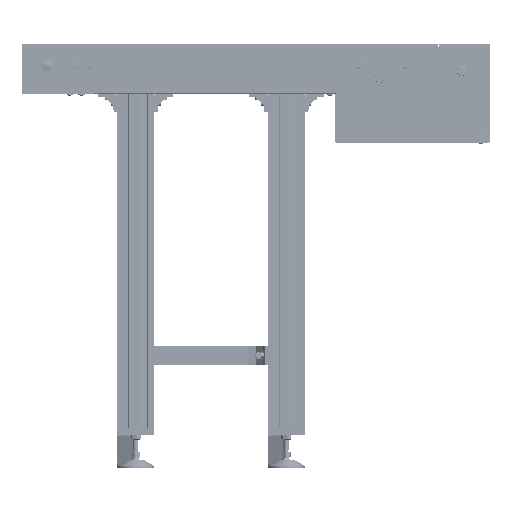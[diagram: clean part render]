
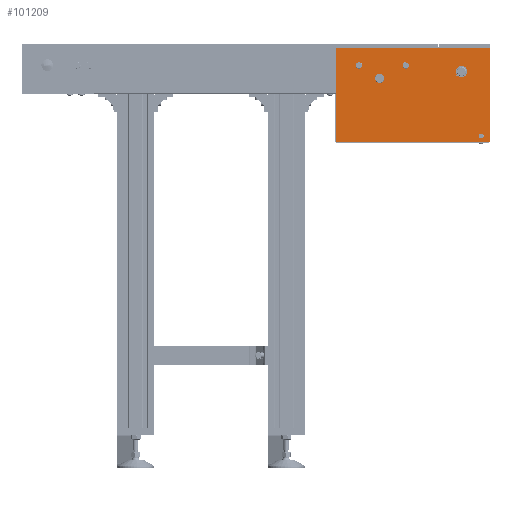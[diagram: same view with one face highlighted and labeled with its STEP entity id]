
A CAD part, front view. The second image highlights one B-rep face of the part: STEP entity #101209.
In plain terms, the highlighted planar face has unit normal (0, -1, 0).
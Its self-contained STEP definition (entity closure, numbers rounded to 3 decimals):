
#3018=FACE_BOUND('',#13751,.T.);
#3019=FACE_BOUND('',#13752,.T.);
#3020=FACE_BOUND('',#13753,.T.);
#3021=FACE_BOUND('',#13754,.T.);
#3022=FACE_BOUND('',#13755,.T.);
#4417=CIRCLE('',#107037,10.);
#4459=CIRCLE('',#107129,5.);
#4476=CIRCLE('',#107166,6.5);
#4477=CIRCLE('',#107167,6.5);
#4478=CIRCLE('',#107168,10.);
#8238=FACE_OUTER_BOUND('',#13750,.T.);
#13750=EDGE_LOOP('',(#68598,#68599,#68600,#68601));
#13751=EDGE_LOOP('',(#68602));
#13752=EDGE_LOOP('',(#68603));
#13753=EDGE_LOOP('',(#68604));
#13754=EDGE_LOOP('',(#68605));
#13755=EDGE_LOOP('',(#68606));
#21466=LINE('',#149786,#31498);
#21477=LINE('',#149820,#31509);
#21478=LINE('',#149822,#31510);
#21479=LINE('',#149823,#31511);
#31498=VECTOR('',#120116,330.);
#31509=VECTOR('',#120141,200.);
#31510=VECTOR('',#120142,200.);
#31511=VECTOR('',#120143,330.);
#40994=VERTEX_POINT('',#149488);
#41054=VERTEX_POINT('',#149677);
#41080=VERTEX_POINT('',#149783);
#41081=VERTEX_POINT('',#149785);
#41097=VERTEX_POINT('',#149819);
#41098=VERTEX_POINT('',#149821);
#41099=VERTEX_POINT('',#149824);
#41100=VERTEX_POINT('',#149826);
#41101=VERTEX_POINT('',#149828);
#51488=EDGE_CURVE('',#40994,#40994,#4417,.T.);
#51567=EDGE_CURVE('',#41054,#41054,#4459,.T.);
#51605=EDGE_CURVE('',#41081,#41080,#21466,.T.);
#51622=EDGE_CURVE('',#41097,#41081,#21477,.T.);
#51623=EDGE_CURVE('',#41080,#41098,#21478,.T.);
#51624=EDGE_CURVE('',#41098,#41097,#21479,.T.);
#51625=EDGE_CURVE('',#41099,#41099,#4476,.T.);
#51626=EDGE_CURVE('',#41100,#41100,#4477,.T.);
#51627=EDGE_CURVE('',#41101,#41101,#4478,.T.);
#68598=ORIENTED_EDGE('',*,*,#51622,.T.);
#68599=ORIENTED_EDGE('',*,*,#51605,.T.);
#68600=ORIENTED_EDGE('',*,*,#51623,.T.);
#68601=ORIENTED_EDGE('',*,*,#51624,.T.);
#68602=ORIENTED_EDGE('',*,*,#51488,.T.);
#68603=ORIENTED_EDGE('',*,*,#51567,.T.);
#68604=ORIENTED_EDGE('',*,*,#51625,.T.);
#68605=ORIENTED_EDGE('',*,*,#51626,.F.);
#68606=ORIENTED_EDGE('',*,*,#51627,.F.);
#92021=PLANE('',#107165);
#101209=ADVANCED_FACE('',(#8238,#3018,#3019,#3020,#3021,#3022),#92021,.T.);
#107037=AXIS2_PLACEMENT_3D('',#149489,#119820,#119821);
#107129=AXIS2_PLACEMENT_3D('',#149678,#120041,#120042);
#107165=AXIS2_PLACEMENT_3D('',#149818,#120139,#120140);
#107166=AXIS2_PLACEMENT_3D('',#149825,#120144,#120145);
#107167=AXIS2_PLACEMENT_3D('',#149827,#120146,#120147);
#107168=AXIS2_PLACEMENT_3D('',#149829,#120148,#120149);
#119820=DIRECTION('center_axis',(0.,1.,0.));
#119821=DIRECTION('ref_axis',(-0.431,0.,-0.902));
#120041=DIRECTION('center_axis',(0.,1.,0.));
#120042=DIRECTION('ref_axis',(-1.,0.,0.));
#120116=DIRECTION('',(-1.,0.,0.));
#120139=DIRECTION('center_axis',(0.,-1.,0.));
#120140=DIRECTION('ref_axis',(1.,0.,0.));
#120141=DIRECTION('',(0.,0.,1.));
#120142=DIRECTION('',(0.,0.,-1.));
#120143=DIRECTION('',(1.,0.,0.));
#120144=DIRECTION('center_axis',(0.,1.,0.));
#120145=DIRECTION('ref_axis',(-1.,0.,0.));
#120146=DIRECTION('center_axis',(0.,-1.,0.));
#120147=DIRECTION('ref_axis',(-1.,0.,0.));
#120148=DIRECTION('center_axis',(0.,-1.,0.));
#120149=DIRECTION('ref_axis',(0.108,0.,0.994));
#149488=CARTESIAN_POINT('',(943.811,-135.7,55.723));
#149489=CARTESIAN_POINT('Origin',(939.5,-135.7,46.7));
#149677=CARTESIAN_POINT('',(976.5,-135.7,-91.05));
#149678=CARTESIAN_POINT('Origin',(981.5,-135.7,-91.05));
#149783=CARTESIAN_POINT('',(670.5,-135.7,96.45));
#149785=CARTESIAN_POINT('',(1000.5,-135.7,96.45));
#149786=CARTESIAN_POINT('',(835.5,-135.7,96.45));
#149818=CARTESIAN_POINT('Origin',(835.5,-135.7,-3.55));
#149819=CARTESIAN_POINT('',(1000.5,-135.7,-103.55));
#149820=CARTESIAN_POINT('',(1000.5,-135.7,-3.55));
#149821=CARTESIAN_POINT('',(670.5,-135.7,-103.55));
#149822=CARTESIAN_POINT('',(670.5,-135.7,-3.55));
#149823=CARTESIAN_POINT('',(835.5,-135.7,-103.55));
#149824=CARTESIAN_POINT('',(814.,-135.7,59.975));
#149825=CARTESIAN_POINT('Origin',(820.5,-135.7,59.975));
#149826=CARTESIAN_POINT('',(714.,-135.7,59.975));
#149827=CARTESIAN_POINT('Origin',(720.5,-135.7,59.975));
#149828=CARTESIAN_POINT('',(765.578,-135.7,42.642));
#149829=CARTESIAN_POINT('Origin',(764.5,-135.7,32.7));
